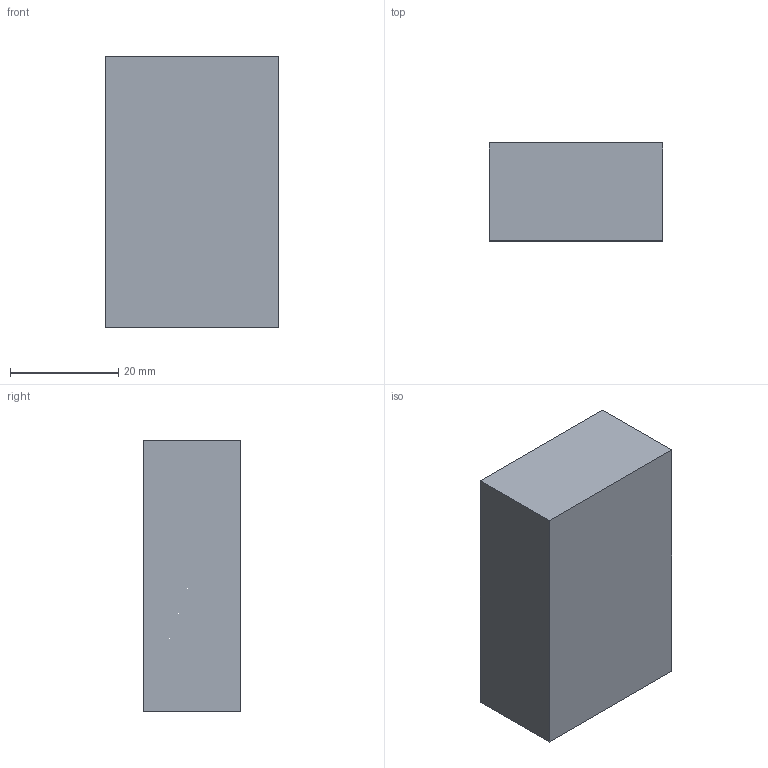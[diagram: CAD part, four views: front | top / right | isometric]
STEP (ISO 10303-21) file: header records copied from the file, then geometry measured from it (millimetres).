
FILE_DESCRIPTION(('Open CASCADE Model'),'2;1');
FILE_NAME('Open CASCADE Shape Model','2026-10-20T15:49:31',('Author'),( 'Open CASCADE'),'Open CASCADE STEP processor 7.8','Open CASCADE 7.8' ,'Unknown');
FILE_SCHEMA(('AUTOMOTIVE_DESIGN { 1 0 10303 214 1 1 1 1 }'));
Length unit declared in the file: millimetre
Products named in the file (1): Open CASCADE STEP translator 7.8 2
Bounding box: 32 x 18 x 50 mm (x, y, z)
Volume: 28800 mm3; surface area: 6152 mm2
Topology: 1 solids, 1 shells, 6 faces, 12 edges, 8 vertices
Faces by surface type: plane 6
Entity records: 322 total; most frequent: CARTESIAN_POINT 51, DIRECTION 50, LINE 36, VECTOR 36, ORIENTED_EDGE 24, PCURVE 24, DEFINITIONAL_REPRESENTATION 24, EDGE_CURVE 12
